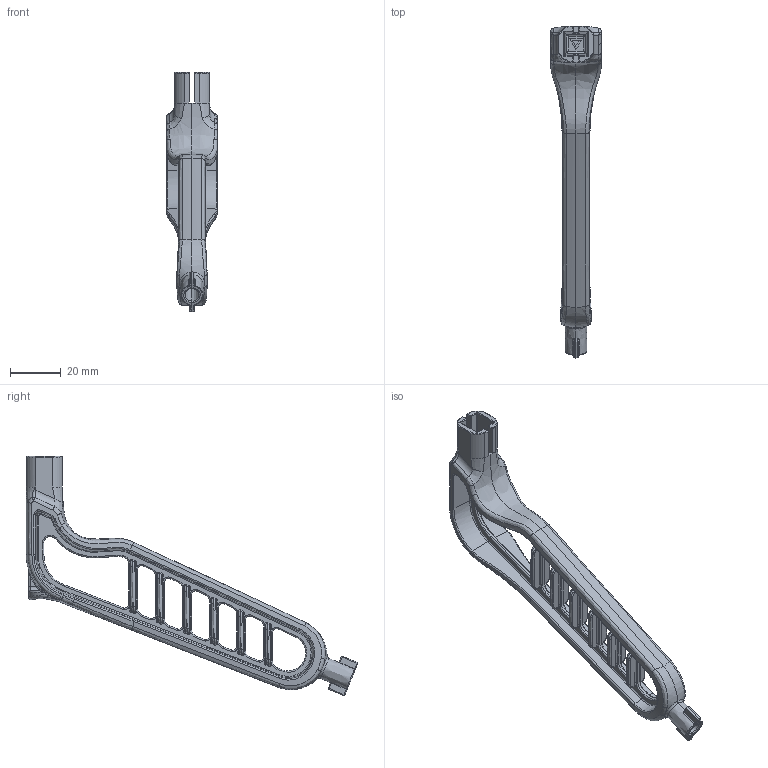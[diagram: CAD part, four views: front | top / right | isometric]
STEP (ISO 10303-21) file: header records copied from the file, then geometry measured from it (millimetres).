
FILE_DESCRIPTION (( 'STEP AP203' ), '1' );
FILE_NAME ('P.020187.STEP', '2022-02-22T12:07:15', ( '' ), ( '' ), 'SwSTEP 2.0', 'SolidWorks 2021', '' );
FILE_SCHEMA (( 'CONFIG_CONTROL_DESIGN' ));
Products named in the file (1): P.020187
Bounding box: 20 x 130.31 x 93.93 mm (x, y, z)
Volume: 21261.8 mm3; surface area: 15209.9 mm2
Topology: 1 solids, 1 shells, 992 faces, 2389 edges, 1384 vertices
Faces by surface type: bspline 443, cylinder 275, plane 144, torus 76, cone 39, sphere 15
Entity records: 49020 total; most frequent: CARTESIAN_POINT 29500, ORIENTED_EDGE 4766, DIRECTION 3226, EDGE_CURVE 2383, VERTEX_POINT 1384, AXIS2_PLACEMENT_3D 1276, EDGE_LOOP 997, ADVANCED_FACE 992
